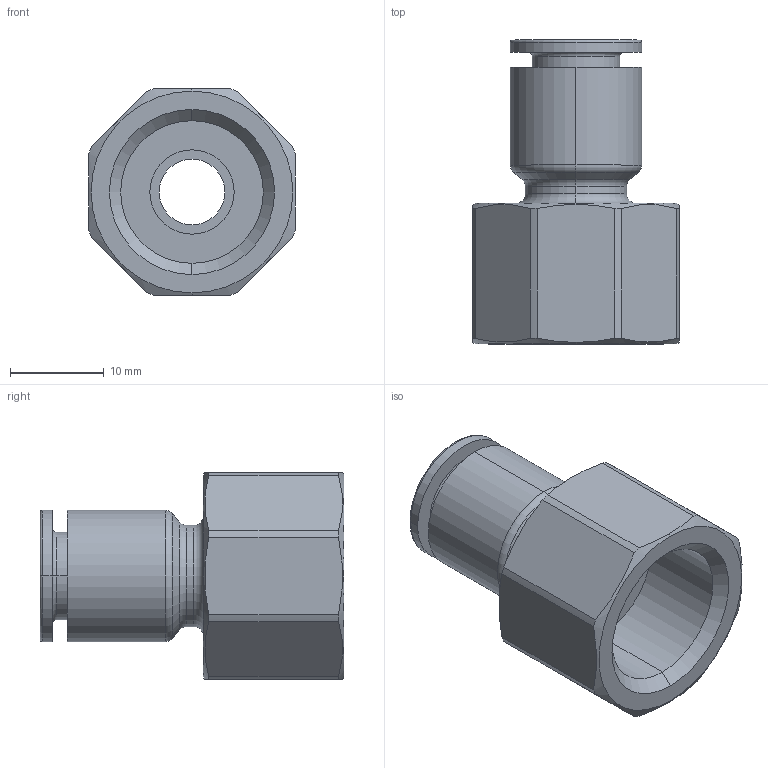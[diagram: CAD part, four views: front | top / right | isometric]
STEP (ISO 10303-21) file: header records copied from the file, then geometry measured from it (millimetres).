
FILE_DESCRIPTION (( 'STEP AP214' ), '1' );
FILE_NAME ('5403000010A.STEP', '2025-08-04T09:13:47', ( '' ), ( '' ), 'SwSTEP 2.0', 'SolidWorks 2020', '' );
FILE_SCHEMA (( 'AUTOMOTIVE_DESIGN' ));
Length unit declared in the file: millimetre
Products named in the file (1): 5403000010A
Bounding box: 22 x 32.4 x 22 mm (x, y, z)
Volume: 5277.3 mm3; surface area: 3744.2 mm2
Topology: 1 solids, 1 shells, 205 faces, 523 edges, 342 vertices
Faces by surface type: plane 104, bspline 55, cylinder 24, cone 12, torus 10
Entity records: 11234 total; most frequent: CARTESIAN_POINT 4322, ORIENTED_EDGE 1046, DIRECTION 773, EDGE_CURVE 523, VERTEX_POINT 342, LINE 315, VECTOR 315, AXIS2_PLACEMENT_3D 229
